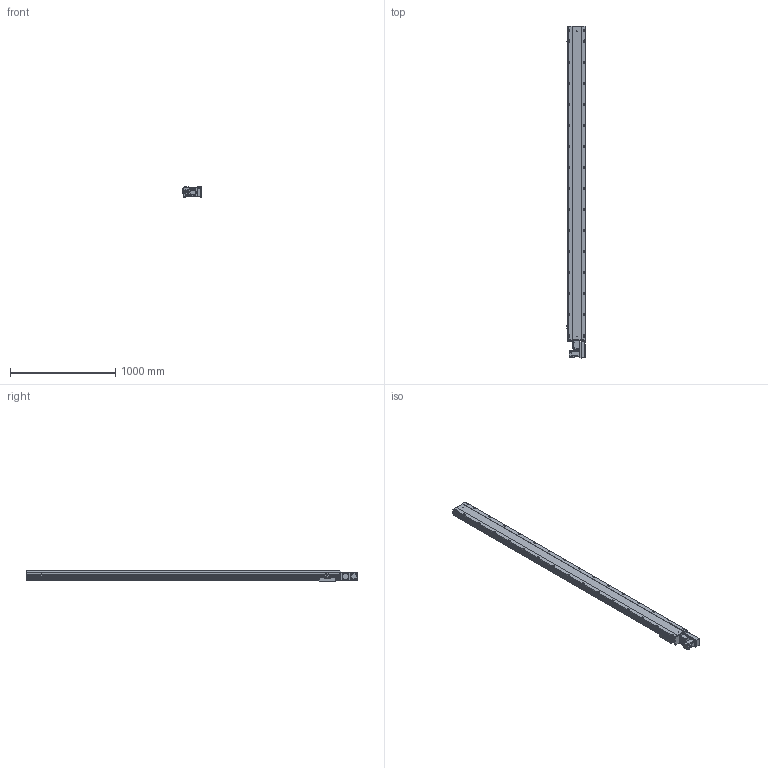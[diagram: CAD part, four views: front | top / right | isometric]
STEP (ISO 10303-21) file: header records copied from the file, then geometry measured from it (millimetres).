
FILE_DESCRIPTION (( 'STEP AP203' ), '1' );
FILE_NAME ('BTB17-L40-2700-L-M40-C4.STEP', '2022-07-20T03:17:53', ( 'CXY' ), ( 'BT' ), 'SwSTEP 2.0', 'SolidWorks 2016', '' );
FILE_SCHEMA (( 'CONFIG_CONTROL_DESIGN' ));
Length unit declared in the file: millimetre
Products named in the file (11): BTB17-L-23; BTB17-L-04; BTB17-L-01; BTB17-L-HZ; FS-07-T40(1); M40; BTB17-L-24; BTB17-L40-2700-L-M40-C4; BTB17-L-06; BTB17-L-菁釱_XD; FS-08-T40
Assembly tree (13 placements, depth 2):
  BTB17-L40-2700-L-M40-C4
    BTB17-L-菁釱_XD
    BTB17-L-01
    BTB17-L-04  x3
    BTB17-L-06
    BTB17-L-23  x2
    BTB17-L-24
    BTB17-L-HZ
    FS-07-T40(1)
    FS-08-T40
    M40
Bounding box: 183.7 x 3154.5 x 97 mm (x, y, z)
Volume: 25646676.7 mm3; surface area: 3274979.8 mm2
Topology: 22 solids, 22 shells, 1777 faces, 4647 edges, 2930 vertices
Faces by surface type: plane 925, cylinder 632, cone 188, torus 16, bspline 16
Entity records: 46642 total; most frequent: CARTESIAN_POINT 9010, DIRECTION 7753, ORIENTED_EDGE 7374, EDGE_CURVE 3687, AXIS2_PLACEMENT_3D 2695, VERTEX_POINT 2398, VECTOR 2363, LINE 2363
